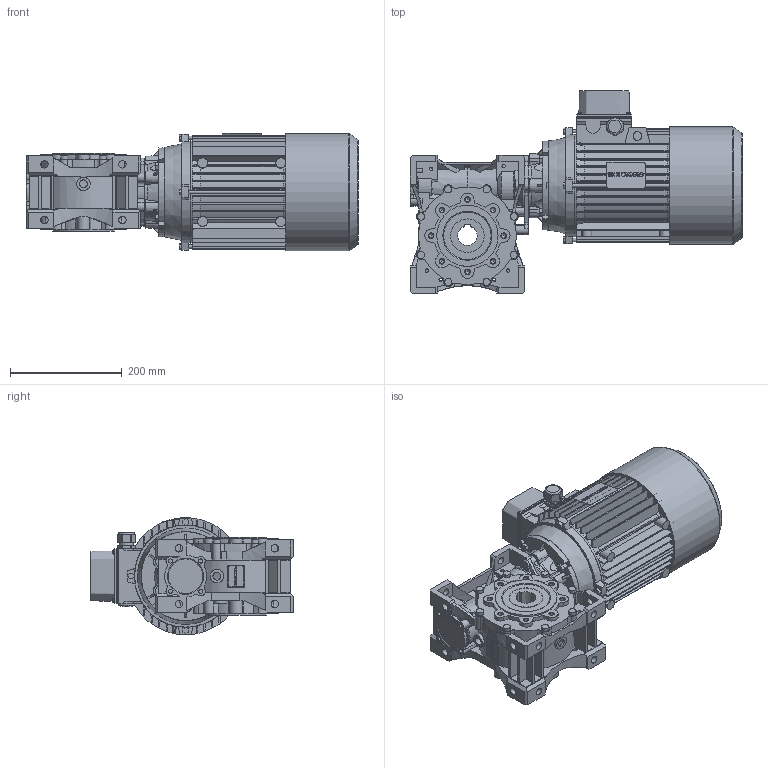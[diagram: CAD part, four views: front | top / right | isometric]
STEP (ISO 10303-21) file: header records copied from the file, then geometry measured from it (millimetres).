
FILE_DESCRIPTION(/* description */ ('STEP AP203'),/* implementation_level */ '2;1');
FILE_NAME(/* name */ 'NMRVP_090_160x28_35_NO_NO_-_-_NO_-_-_-_NO_TP_112_112M41-_-----IC411NONO------STD',/* time_stamp */ '2025-12-05T01:58:42+01:00',/* author */ ('License CC BY-ND 4.0'),/* organization */ ('CADENAS'),/* preprocessor_version */ 'ST-DEVELOPER v20',/* originating_system */ 'PARTsolutions',/* authorisation */ ' ');
FILE_SCHEMA (('CONFIG_CONTROL_DESIGN'));
Length unit declared in the file: millimetre
Products named in the file (13): NMRVP 090 160x28 35 NO NO - - NO - - - NO TP 112 112M41-(-----IC411NO
NO------STD); W.090.01.M; 090-35 (140); W.090.14.28.M-p; 90100/112 B14; FLANGIA_TP112B14-; CARCASSA_TP112M4112IC411B1428X60NONO--; COPRIMORSETTIERA_TP112A002; PRESSACAVO_3; COP_TP_112M4_IC411_NO_-_-_-_-_STD; TIPPO_25; ALBERO_TP11228X60NO; 90-50
Assembly tree (12 placements, depth 2):
  NMRVP 090 160x28 35 NO NO - - NO - - - NO TP 112 112M41-(-----IC411NO
NO------STD)
    W.090.01.M
    090-35 (140)
    W.090.14.28.M-p
    90100/112 B14
    FLANGIA_TP112B14-
    CARCASSA_TP112M4112IC411B1428X60NONO--
    COPRIMORSETTIERA_TP112A002
    PRESSACAVO_3
    COP_TP_112M4_IC411_NO_-_-_-_-_STD
    TIPPO_25
    ALBERO_TP11228X60NO
    90-50
Bounding box: 595.5 x 363.1 x 211.06 mm (x, y, z)
Volume: 15831283.3 mm3; surface area: 1226954.2 mm2
Topology: 12 solids, 14 shells, 3389 faces, 9298 edges, 6131 vertices
Faces by surface type: plane 1804, cylinder 1342, cone 232, torus 5, sphere 5, bspline 1
Full cylindrical faces by diameter (mm): 1.8 x1, 2.02 x1, 5.5 x2, 6 x16, 7.45 x16, 8 x12, 8.376 x17, 10.5 x1, 13 x8, 13.4 x14, 14 x4, 16 x2, 24 x2, 25 x3, 28 x1, 29 x1, 30 x2, 31 x1, 45 x1, 50 x4, 58 x1, 60 x1, 75 x2, 79 x1, 90 x2, 99 x1, 110 x3, 178 x2, 183 x2, 210.4 x1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
Entity records: 107888 total; most frequent: CARTESIAN_POINT 20300, DIRECTION 18633, ORIENTED_EDGE 18084, EDGE_CURVE 9042, AXIS2_PLACEMENT_3D 6680, VERTEX_POINT 6081, LINE 5273, VECTOR 5273
